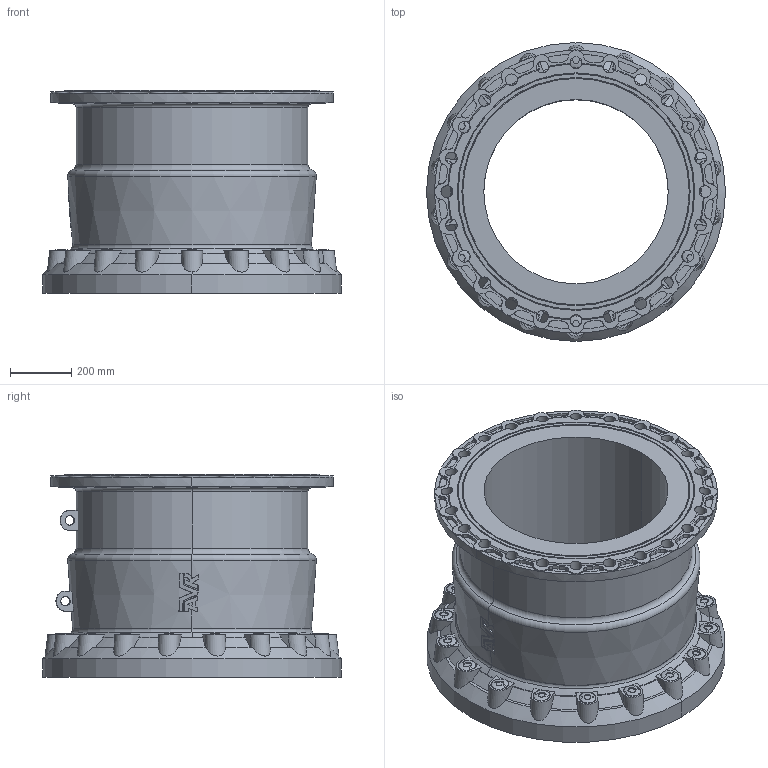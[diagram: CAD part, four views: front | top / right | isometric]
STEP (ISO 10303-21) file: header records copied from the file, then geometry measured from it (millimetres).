
FILE_DESCRIPTION (( 'STEP AP203' ), '1' );
FILE_NAME ('O_633_00_DN700_X0X_REV01.step', '2020-09-25T06:11:19', ( '' ), ( '' ), 'SwSTEP 2.0', 'SolidWorks 2019', '' );
FILE_SCHEMA (( 'CONFIG_CONTROL_DESIGN' ));
Length unit declared in the file: millimetre
Products named in the file (1): O_633_00_DN700_X0X_REV01
Bounding box: 973 x 973 x 661.95 mm (x, y, z)
Volume: 158429227.3 mm3; surface area: 4342217.1 mm2
Topology: 1 solids, 1 shells, 945 faces, 2659 edges, 1705 vertices
Faces by surface type: cylinder 465, plane 287, torus 90, cone 85, bspline 18
Entity records: 37008 total; most frequent: CARTESIAN_POINT 12332, DIRECTION 5362, ORIENTED_EDGE 5318, EDGE_CURVE 2659, AXIS2_PLACEMENT_3D 2243, VERTEX_POINT 1705, CIRCLE 1315, EDGE_LOOP 988
